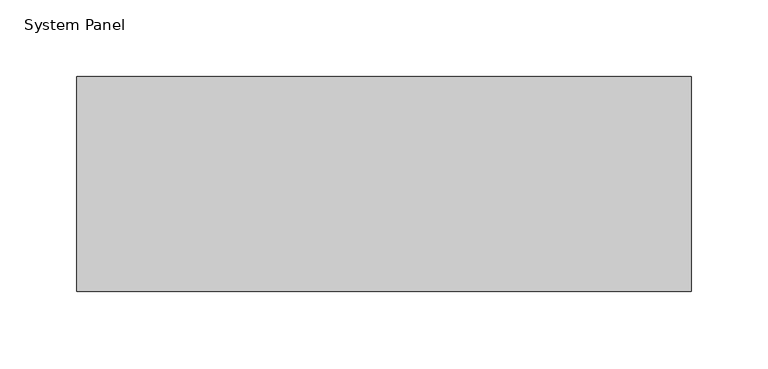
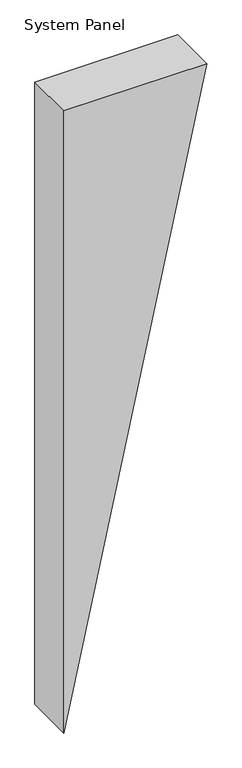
"""IFC4 building model written with IfcOpenShell, lengths in millimetres: plate geometry, System Panel : InsulWall_140mm_Plain_Surfmist."""

from ifc_helpers import new_model, si_unit, frame, origin, place, context, project, spatial, polyline, outline, extrude, source, transform, mapped, element, save


def system_panel_e3531a80(model_context):
    return source(origin(), model_context, "Body", "SweptSolid", [
        extrude(outline(polyline([(1839.9852118, -200.0), (0.0, -200.0), (1839.9852118, 200.0), (1839.9852118, -200.0)])), frame((0.0, -140.0, 0.0), z_axis=(0.0, 1.0, 0.0), x_axis=(0.0, 0.0, 1.0)), (0.0, 0.0, 1.0), 140.0),
    ])


if __name__ == "__main__":
    model = new_model("IFC4")
    model_context = context("Model", 3, world=origin())
    ifc_project = project(units=[si_unit("LENGTHUNIT", "METRE", prefix="MILLI")], contexts=[model_context])
    site = spatial("IfcSite", under=ifc_project)
    building = spatial("IfcBuilding", under=site)
    placement = place(None, origin())
    system_panel_shape = system_panel_e3531a80(model_context)
    element("IfcPlate", 1, ObjectType="System Panel : InsulWall_140mm_Plain_Surfmist", at=placement, inside=building, context=model_context, shape_type="MappedRepresentation", body=[
        mapped(system_panel_shape, transform((0.0, 0.0, 0.0), x_axis=(1.0, 0.0, 0.0), y_axis=(0.0, 1.0, 0.0), z_axis=(0.0, 0.0, 1.0))),
    ])
    save(model, "model.ifc")
